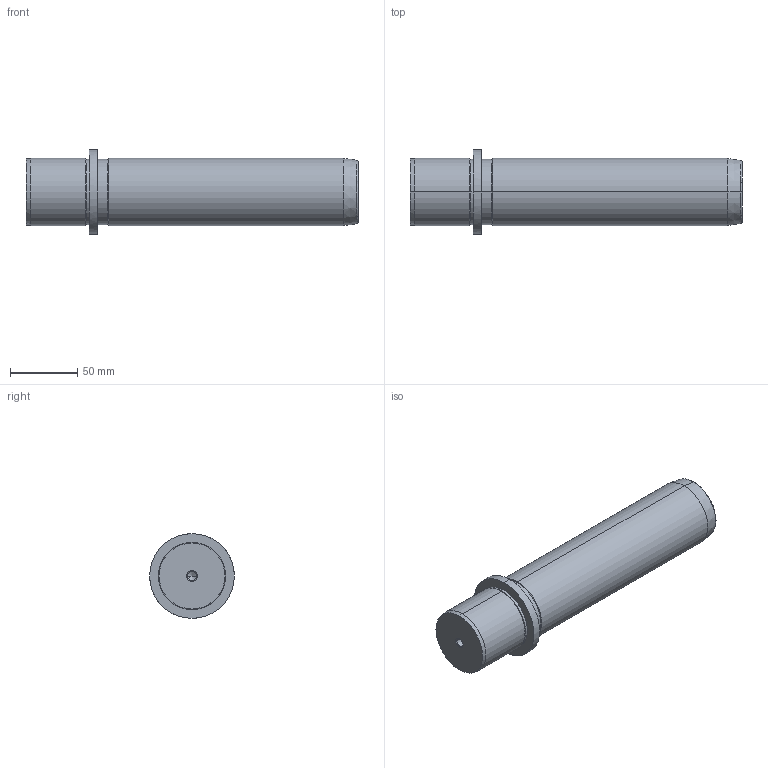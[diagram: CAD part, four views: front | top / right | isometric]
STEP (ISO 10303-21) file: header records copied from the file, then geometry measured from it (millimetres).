
FILE_DESCRIPTION(('CATIA V5 STEP Exchange'),'2;1');
FILE_NAME('C:\Users\Utente\Desktop\IO LAVORO\3D X SITO CF\X SITO\718\718-50x200.stp','2021-01-02T12:22:07+00:00',('none'),('none'),'CATIA Version 5 Release 20 GA (IN-10)','CATIA V5 STEP AP203','none');
FILE_SCHEMA(('CONFIG_CONTROL_DESIGN'));
Length unit declared in the file: millimetre
Products named in the file (1): 718-50x200
Bounding box: 247 x 63 x 63 mm (x, y, z)
Volume: 488040.4 mm3; surface area: 46082.2 mm2
Topology: 1 solids, 1 shells, 36 faces, 100 edges, 66 vertices
Faces by surface type: cone 16, cylinder 14, plane 4, torus 2
Entity records: 1291 total; most frequent: CARTESIAN_POINT 362, ORIENTED_EDGE 192, DIRECTION 157, EDGE_CURVE 96, AXIS2_PLACEMENT_3D 92, VERTEX_POINT 66, CIRCLE 55, EDGE_LOOP 40
